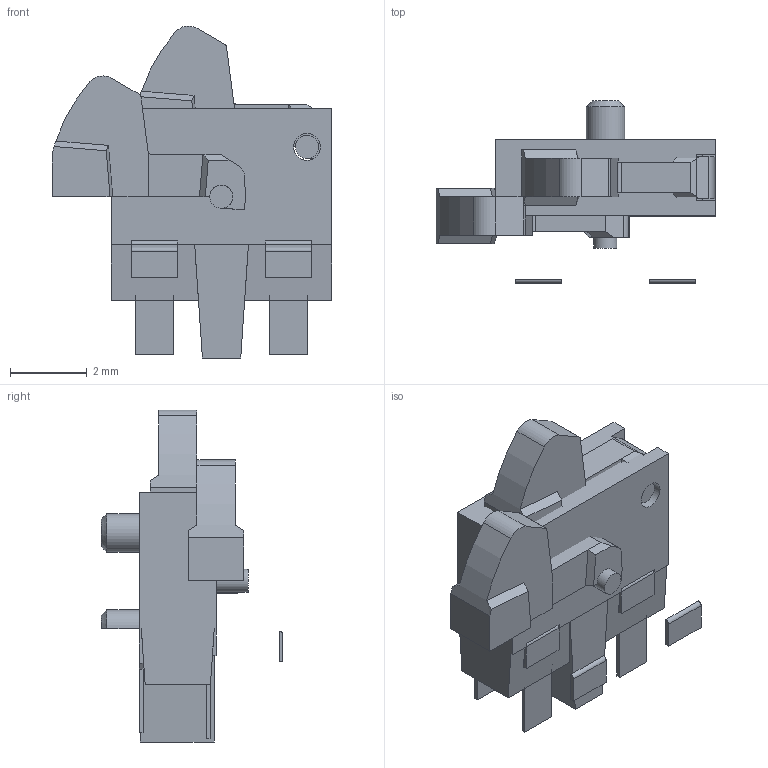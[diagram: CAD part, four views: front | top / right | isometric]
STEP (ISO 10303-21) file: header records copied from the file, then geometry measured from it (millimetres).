
FILE_DESCRIPTION( ( 'Unknown' ), '1' );
FILE_NAME( '//Ntcw022/edgesv/fsw/ユーザ提出用データ/ﾃﾞｨﾃｸﾀｰｽｲｯﾁ/ESE22/ese22mh28t-std-sk.stp', 'Unknown', ( 'Unknown' ), ( 'Unknown' ), 'PSStep 10.0', 'Unknown', ' ' );
FILE_SCHEMA( ( 'AUTOMOTIVE_DESIGN { 1 0 10303 214 1 1 1 1 }' ) );
Length unit declared in the file: millimetre
Products named in the file (7): Assem1; sw-3d-131-e22lv12a-sk-r00; sw-3d-131-e22ts16mh(std)-sk-r00; e22cs4af-mh-pc-r00
Bounding box: 7.29 x 4.74 x 8.65 mm (x, y, z)
Volume: 139.5 mm3; surface area: 345.3 mm2
Topology: 12 solids, 12 shells, 244 faces, 654 edges, 434 vertices
Faces by surface type: plane 214, cylinder 26, cone 4
Full cylindrical faces by diameter (mm): 0.6 x2, 0.7 x2, 1 x2
Entity records: 4806 total; most frequent: CARTESIAN_POINT 660, ORIENTED_EDGE 636, DIRECTION 612, EDGE_CURVE 318, LINE 282, VECTOR 282, VERTEX_POINT 213, AXIS2_PLACEMENT_3D 165
